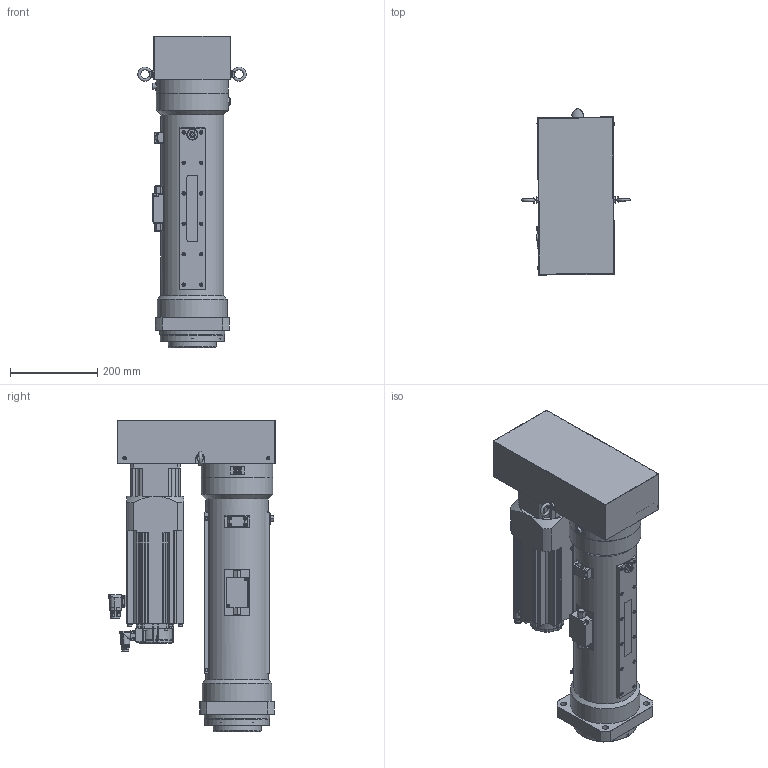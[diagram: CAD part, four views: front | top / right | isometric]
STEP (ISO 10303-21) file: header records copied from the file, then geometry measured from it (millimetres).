
FILE_DESCRIPTION(/* description */ (''),/* implementation_level */ '2;1');
FILE_NAME(/* name */ 'Z:\07.Product\01.Design\3D\1.P-All\OAICS-P\0000.Assembly\OACIS-P090,P100-300-150-A6V400.stp',/* time_stamp */ '2023-03-03T11:06:39+09:00',/* author */ ('magic'),/* organization */ (''),/* preprocessor_version */ 'ST-DEVELOPER v17',/* originating_system */ 'Autodesk Inventor 2019',/* authorisation */ '');
FILE_SCHEMA (('AUTOMOTIVE_DESIGN { 1 0 10303 214 3 1 1 }'));
Products named in the file (1): OACIS-P100-300-150-A6
Bounding box: 248.9 x 382.05 x 716 mm (x, y, z)
Volume: 14316122 mm3; surface area: 1663693.6 mm2
Topology: 3 solids, 8 shells, 2814 faces, 7653 edges, 5078 vertices
Faces by surface type: plane 1411, cylinder 823, cone 259, bspline 156, torus 105, sphere 60
Full cylindrical faces by diameter (mm): 1 x6, 1.25 x12, 2 x1, 2.113 x1, 2.232 x6, 2.8 x1, 3.242 x9, 3.317 x1, 4 x1, 4.134 x4, 5.5 x5, 5.8 x2, 6 x5, 6.5 x2, 6.647 x24, 6.75 x4, 7 x36, 7.2 x2, 7.24 x2, 7.8 x2, 8 x43, 8.376 x8, 8.5 x4, 9 x16, 9.188 x1, 9.5 x6, 10 x4, 10.3 x1, 11 x1, 12 x1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
Entity records: 104047 total; most frequent: CARTESIAN_POINT 30020, ORIENTED_EDGE 15067, DIRECTION 14872, EDGE_CURVE 7541, AXIS2_PLACEMENT_3D 5523, VERTEX_POINT 5078, LINE 3826, VECTOR 3826
